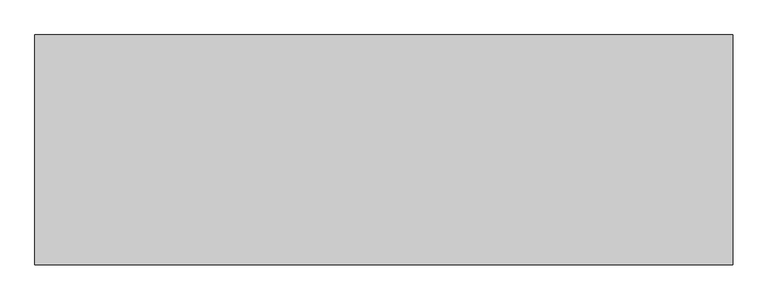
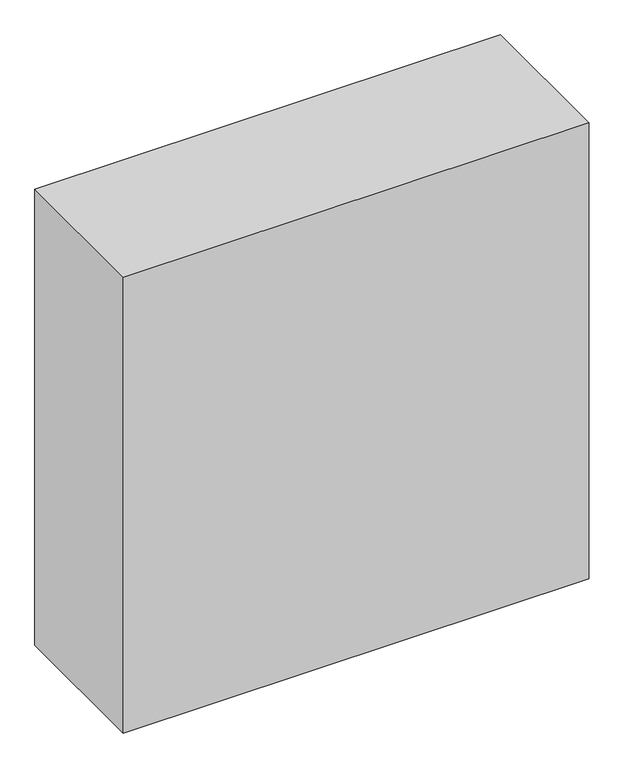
"""IFC4 building model written with IfcOpenShell, lengths in millimetres: proxy geometry."""

from ifc_helpers import new_model, si_unit, origin, origin_with_axes, place, context, project, spatial, polyline, outline, extrude, source, transform, mapped, element, save


def generic_models_7a67d299(model_context):
    return source(origin(), model_context, "Body", "SweptSolid", [
        extrude(outline(polyline([(7245.0, -600.0), (4815.0, -600.0), (4815.0, 200.0), (7245.0, 200.0), (7245.0, -600.0)])), origin_with_axes(), (0.0, 0.0, 1.0), 2515.0),
    ])


if __name__ == "__main__":
    model = new_model("IFC4")
    model_context = context("Model", 3, world=origin())
    ifc_project = project(units=[si_unit("LENGTHUNIT", "METRE", prefix="MILLI")], contexts=[model_context])
    site = spatial("IfcSite", under=ifc_project)
    building = spatial("IfcBuilding", under=site)
    placement = place(None, origin())
    generic_models_shape = generic_models_7a67d299(model_context)
    element("IfcBuildingElementProxy", 1, Name="Generic Models", at=placement, inside=building, context=model_context, shape_type="MappedRepresentation", body=[
        mapped(generic_models_shape, transform((0.0, 0.0, 0.0), x_axis=(1.0, 0.0, 0.0), y_axis=(0.0, 1.0, 0.0), z_axis=(0.0, 0.0, 1.0))),
    ])
    save(model, "model.ifc")
